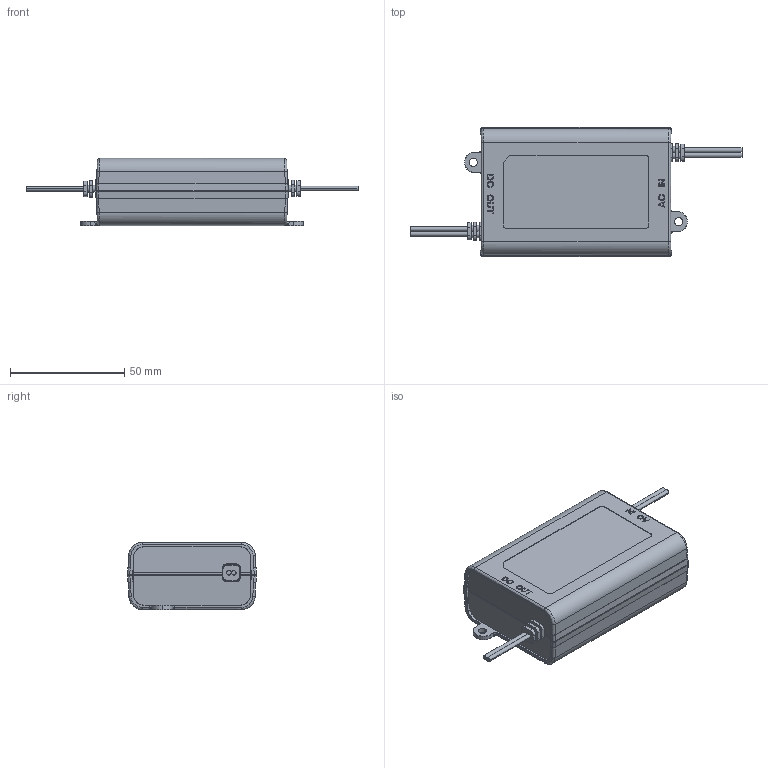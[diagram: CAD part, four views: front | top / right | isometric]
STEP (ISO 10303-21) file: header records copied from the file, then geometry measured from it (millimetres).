
FILE_DESCRIPTION(('Creo Elements/Direct Modeling STEP Export'),'2;1');
FILE_NAME('APV-25.stp','2017-07-12T15:36:51',(''),(''),'PTC Creo Elements/Direct Modeling STEP processor for AP214 (Solid Model)','PTC Creo Elements/Direct Modeling 19.0 09-May-2014 (C) Parametric Technology GmbH','');
FILE_SCHEMA(('AUTOMOTIVE_DESIGN { 1 0 10303 214 1 1 1 1 }'));
Length unit declared in the file: millimetre
Products named in the file (12): PCB.3.2; HH; PCB.3; DD; HH.1; MSBR.1.1.1; dd; PCB; ÊU£\; a1; All; APV-25
Assembly tree (12 placements, depth 4):
  APV-25
    All
      a1
        ÊU£\
      PCB
        dd
        MSBR.1.1.1  x2
        HH.1
        DD
        PCB.3
        HH
        PCB.3.2
Bounding box: 145.61 x 56.62 x 29.5 mm (x, y, z)
Volume: 66663.6 mm3; surface area: 52402.4 mm2
Topology: 9 solids, 9 shells, 968 faces, 2673 edges, 1750 vertices
Faces by surface type: plane 749, cylinder 163, bspline 24, torus 20, sphere 8, extrusion 4
Entity records: 30599 total; most frequent: CARTESIAN_POINT 6754, ORIENTED_EDGE 5066, DIRECTION 4423, EDGE_CURVE 2533, VECTOR 2149, LINE 2145, VERTEX_POINT 1662, AXIS2_PLACEMENT_3D 1137
